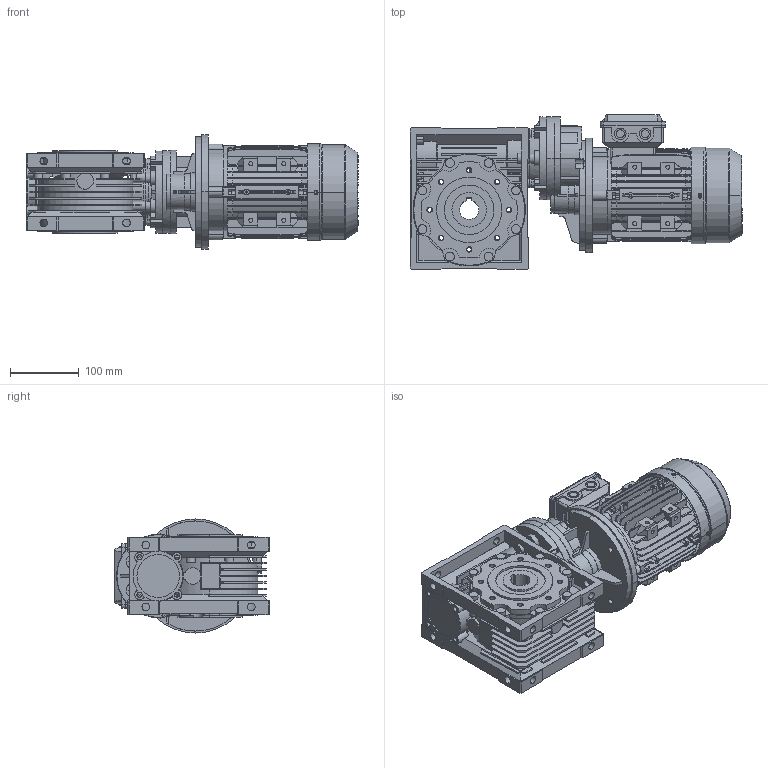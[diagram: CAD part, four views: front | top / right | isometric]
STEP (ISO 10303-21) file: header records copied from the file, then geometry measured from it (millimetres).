
FILE_DESCRIPTION (( 'STEP AP214' ), '1' );
FILE_NAME ('CMRV075_PC071_MX71.STEP', '2018-07-04T10:00:19', ( '' ), ( '' ), 'SwSTEP 2.0', 'SolidWorks 2012', '' );
FILE_SCHEMA (( 'AUTOMOTIVE_DESIGN' ));
Length unit declared in the file: millimetre
Products named in the file (20): MX71_B5; Lüfterhaube_MS71; L黤terfl黦el_MS71; Klemmkastenoberteil_MS71; Klemmenkastenunterteil_MS71; B5-Flansch_MS71; B-Lagerschild_MS71; Gehäuse_MS71L; PC071-A07_Ø19.LK100; -+-¨¢ÃÈ¦Í¨-À-¦Âñ M6í-14; -½¦¢Ë-ÀÔ 20í-35í-7_B1; PC71火怔; +_ÀÔ©Ã 22í-4; ã¢+³ 6í-6í-36; -ﾟ; -½¦¢Ë-ÀÔ 24í-47í-5_B1; 戌俓; PC71火耳; CMRV075_B08; CMRV075_PC071_MX71
Assembly tree (23 placements, depth 3):
  CMRV075_PC071_MX71
    CMRV075_B08
    PC071-A07_Ø19.LK100
      PC71火耳
      戌俓
      -½¦¢Ë-ÀÔ 24í-47í-5_B1
      -ﾟ
      ã¢+³ 6í-6í-36
      +_ÀÔ©Ã 22í-4
      PC71火怔
      -½¦¢Ë-ÀÔ 20í-35í-7_B1
      -+-¨¢ÃÈ¦Í¨-À-¦Âñ M6í-14  x5
    MX71_B5
      Gehäuse_MS71L
      B-Lagerschild_MS71
      B5-Flansch_MS71
      Klemmenkastenunterteil_MS71
      Klemmkastenoberteil_MS71
      L黤terfl黦el_MS71
      Lüfterhaube_MS71
Bounding box: 482.21 x 224 x 165.81 mm (x, y, z)
Volume: 1347248.5 mm3; surface area: 1042924.4 mm2
Topology: 20 solids, 26 shells, 3719 faces, 10335 edges, 6764 vertices
Faces by surface type: plane 1794, cylinder 1242, cone 507, bspline 176
Entity records: 133405 total; most frequent: CARTESIAN_POINT 32813, ORIENTED_EDGE 18921, DIRECTION 18288, EDGE_CURVE 9765, VERTEX_POINT 6452, AXIS2_PLACEMENT_3D 6379, LINE 5530, VECTOR 5530
